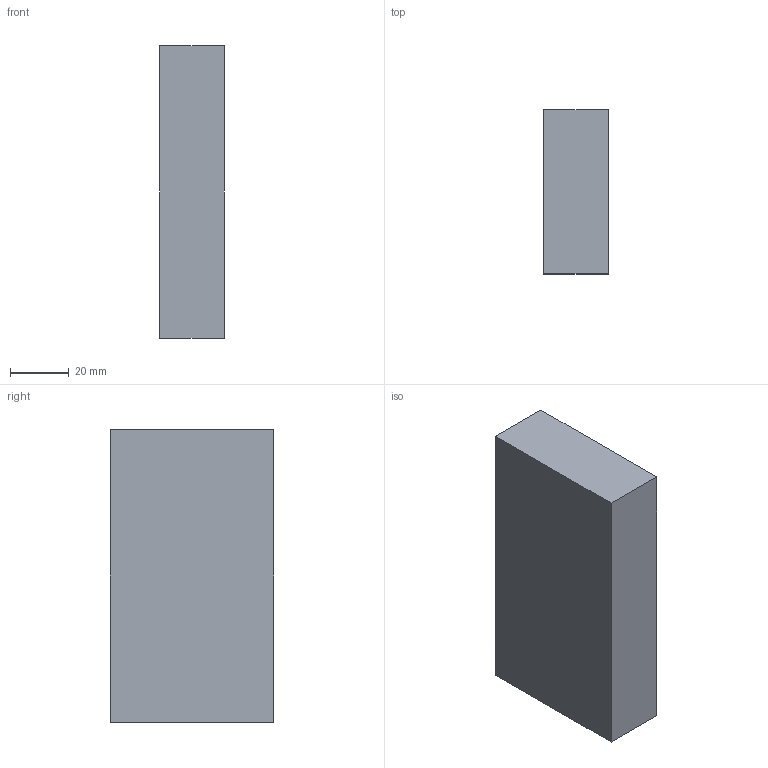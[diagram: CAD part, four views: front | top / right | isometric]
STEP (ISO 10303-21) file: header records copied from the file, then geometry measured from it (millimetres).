
FILE_DESCRIPTION(('Open CASCADE Model'),'2;1');
FILE_NAME('Open CASCADE Shape Model','2026-09-19T23:46:40',('Author'),( 'Open CASCADE'),'Open CASCADE STEP processor 7.9','Open CASCADE 7.9' ,'Unknown');
FILE_SCHEMA(('AUTOMOTIVE_DESIGN { 1 0 10303 214 1 1 1 1 }'));
Length unit declared in the file: millimetre
Products named in the file (1): Open CASCADE STEP translator 7.9 66
Bounding box: 22 x 56 x 100 mm (x, y, z)
Volume: 123200 mm3; surface area: 18064 mm2
Topology: 1 solids, 1 shells, 6 faces, 12 edges, 8 vertices
Faces by surface type: plane 6
Entity records: 322 total; most frequent: CARTESIAN_POINT 51, DIRECTION 50, LINE 36, VECTOR 36, ORIENTED_EDGE 24, PCURVE 24, DEFINITIONAL_REPRESENTATION 24, EDGE_CURVE 12
